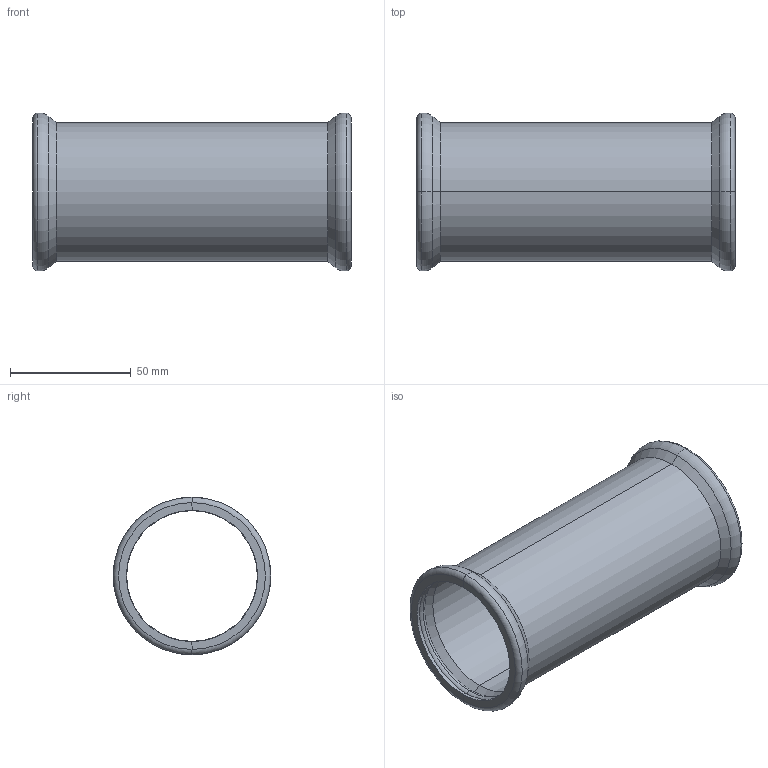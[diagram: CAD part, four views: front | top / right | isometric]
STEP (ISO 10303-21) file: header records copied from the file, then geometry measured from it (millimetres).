
FILE_DESCRIPTION (( 'STEP AP214' ), '1' );
FILE_NAME ('S54000K.STEP', '2025-08-17T07:29:46', ( '' ), ( '' ), 'SwSTEP 2.0', 'SolidWorks 2020', '' );
FILE_SCHEMA (( 'AUTOMOTIVE_DESIGN' ));
Length unit declared in the file: millimetre
Products named in the file (1): S54000K
Bounding box: 131.98 x 65.39 x 65.39 mm (x, y, z)
Volume: 42353.9 mm3; surface area: 55463.5 mm2
Topology: 3 solids, 3 shells, 48 faces, 96 edges, 48 vertices
Faces by surface type: torus 24, cone 16, cylinder 8
Entity records: 1732 total; most frequent: DIRECTION 266, CARTESIAN_POINT 193, ORIENTED_EDGE 192, AXIS2_PLACEMENT_3D 121, EDGE_CURVE 96, CIRCLE 72, ADVANCED_FACE 48, VERTEX_POINT 48
